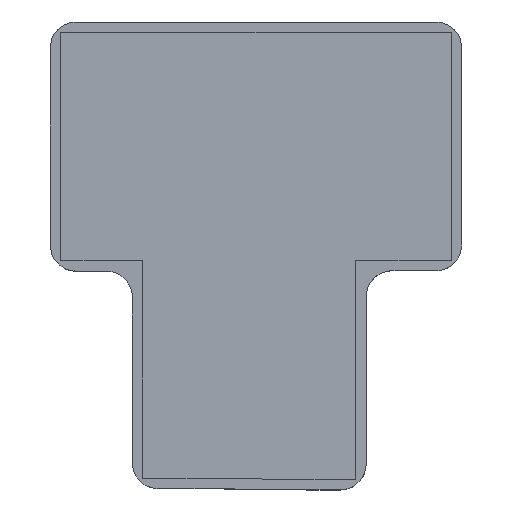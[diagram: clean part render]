
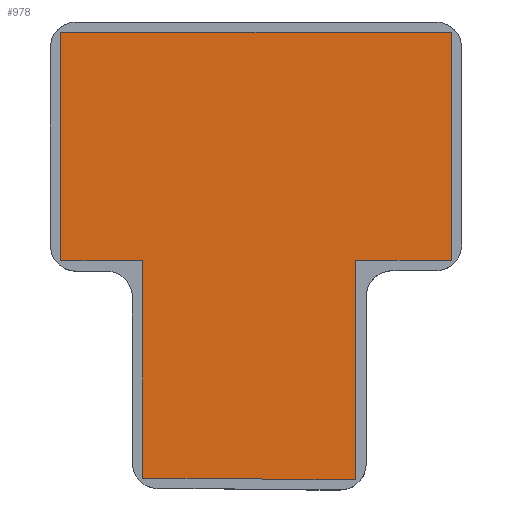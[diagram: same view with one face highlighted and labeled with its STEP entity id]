
A CAD part, top view. The second image highlights one B-rep face of the part: STEP entity #978.
In plain terms, the highlighted planar face has unit normal (0, 0, 1).
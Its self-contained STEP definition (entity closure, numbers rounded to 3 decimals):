
#42=CARTESIAN_POINT('',(26.93,1.702,-8.3));
#43=VERTEX_POINT('',#42);
#50=CARTESIAN_POINT('',(16.105,1.833,-8.3));
#51=VERTEX_POINT('',#50);
#52=CARTESIAN_POINT('',(26.93,1.702,-8.3));
#53=DIRECTION('',(-1.,0.012,0.));
#54=VECTOR('',#53,10.826);
#55=LINE('',#52,#54);
#56=EDGE_CURVE('',#43,#51,#55,.T.);
#160=CARTESIAN_POINT('',(3.099,45.008,-8.3));
#161=VERTEX_POINT('',#160);
#168=CARTESIAN_POINT('',(40.912,45.008,-8.3));
#169=VERTEX_POINT('',#168);
#170=CARTESIAN_POINT('',(3.099,45.008,-8.3));
#171=DIRECTION('',(1.,0.,-0.));
#172=VECTOR('',#171,37.813);
#173=LINE('',#170,#172);
#174=EDGE_CURVE('',#161,#169,#173,.T.);
#198=CARTESIAN_POINT('',(3.099,22.886,-8.3));
#199=VERTEX_POINT('',#198);
#206=CARTESIAN_POINT('',(3.099,45.008,-8.3));
#207=DIRECTION('',(0.,-1.,0.));
#208=VECTOR('',#207,22.121);
#209=LINE('',#206,#208);
#210=EDGE_CURVE('',#161,#199,#209,.T.);
#229=CARTESIAN_POINT('',(11.029,22.886,-8.3));
#230=VERTEX_POINT('',#229);
#237=CARTESIAN_POINT('',(3.099,22.886,-8.3));
#238=DIRECTION('',(1.,0.,-0.));
#239=VECTOR('',#238,7.93);
#240=LINE('',#237,#239);
#241=EDGE_CURVE('',#199,#230,#240,.T.);
#260=CARTESIAN_POINT('',(11.029,1.833,-8.3));
#261=VERTEX_POINT('',#260);
#268=CARTESIAN_POINT('',(11.029,22.886,-8.3));
#269=DIRECTION('',(0.,-1.,0.));
#270=VECTOR('',#269,21.054);
#271=LINE('',#268,#270);
#272=EDGE_CURVE('',#230,#261,#271,.T.);
#290=CARTESIAN_POINT('',(11.029,1.833,-8.3));
#291=DIRECTION('',(1.,0.,-0.));
#292=VECTOR('',#291,5.076);
#293=LINE('',#290,#292);
#294=EDGE_CURVE('',#261,#51,#293,.T.);
#313=CARTESIAN_POINT('',(31.669,1.702,-8.3));
#314=VERTEX_POINT('',#313);
#321=CARTESIAN_POINT('',(26.93,1.702,-8.3));
#322=DIRECTION('',(1.,0.,-0.));
#323=VECTOR('',#322,4.739);
#324=LINE('',#321,#323);
#325=EDGE_CURVE('',#43,#314,#324,.T.);
#344=CARTESIAN_POINT('',(31.669,22.919,-8.3));
#345=VERTEX_POINT('',#344);
#352=CARTESIAN_POINT('',(31.669,1.702,-8.3));
#353=DIRECTION('',(0.,1.,0.));
#354=VECTOR('',#353,21.217);
#355=LINE('',#352,#354);
#356=EDGE_CURVE('',#314,#345,#355,.T.);
#375=CARTESIAN_POINT('',(40.912,22.919,-8.3));
#376=VERTEX_POINT('',#375);
#383=CARTESIAN_POINT('',(31.669,22.919,-8.3));
#384=DIRECTION('',(1.,0.,-0.));
#385=VECTOR('',#384,9.242);
#386=LINE('',#383,#385);
#387=EDGE_CURVE('',#345,#376,#386,.T.);
#865=CARTESIAN_POINT('',(40.912,22.919,-8.3));
#866=DIRECTION('',(0.,1.,0.));
#867=VECTOR('',#866,22.089);
#868=LINE('',#865,#867);
#869=EDGE_CURVE('',#376,#169,#868,.T.);
#961=CARTESIAN_POINT('',(0.,0.,-8.3));
#962=DIRECTION('',(0.,0.,-1.));
#963=DIRECTION('',(-1.,0.,0.));
#964=AXIS2_PLACEMENT_3D('',#961,#962,#963);
#965=PLANE('',#964);
#966=ORIENTED_EDGE('',*,*,#174,.F.);
#967=ORIENTED_EDGE('',*,*,#210,.T.);
#968=ORIENTED_EDGE('',*,*,#241,.T.);
#969=ORIENTED_EDGE('',*,*,#272,.T.);
#970=ORIENTED_EDGE('',*,*,#294,.T.);
#971=ORIENTED_EDGE('',*,*,#56,.F.);
#972=ORIENTED_EDGE('',*,*,#325,.T.);
#973=ORIENTED_EDGE('',*,*,#356,.T.);
#974=ORIENTED_EDGE('',*,*,#387,.T.);
#975=ORIENTED_EDGE('',*,*,#869,.T.);
#976=EDGE_LOOP('',(#966,#967,#968,#969,#970,#971,#972,#973,#974,#975));
#977=FACE_BOUND('',#976,.T.);
#978=ADVANCED_FACE('',(#977),#965,.F.);
